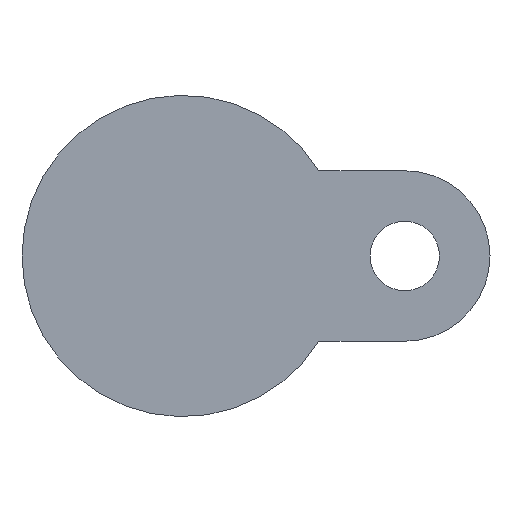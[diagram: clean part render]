
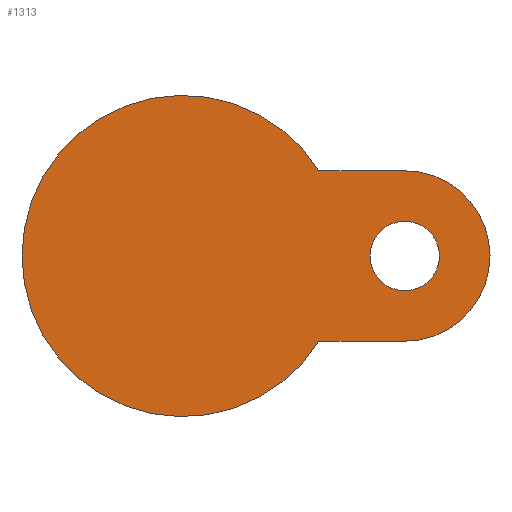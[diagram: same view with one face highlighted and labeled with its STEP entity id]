
A CAD part, front view. The second image highlights one B-rep face of the part: STEP entity #1313.
In plain terms, the highlighted planar face has unit normal (0, -1, 0).
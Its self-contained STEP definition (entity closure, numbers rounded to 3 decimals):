
#3 = AXIS2_PLACEMENT_3D ( 'NONE', #442, #1029, #1351 ) ;
#32 = CARTESIAN_POINT ( 'NONE',  ( 30.5, -23., -21.5 ) ) ;
#36 = DIRECTION ( 'NONE',  ( 0., 1., 0. ) ) ;
#38 = ORIENTED_EDGE ( 'NONE', *, *, #372, .F. ) ;
#102 = CIRCLE ( 'NONE', #635, 40.5 ) ;
#152 = CARTESIAN_POINT ( 'NONE',  ( 56., -23., 0. ) ) ;
#162 = DIRECTION ( 'NONE',  ( 1., 0., 0. ) ) ;
#170 = DIRECTION ( 'NONE',  ( 1., 0., 0. ) ) ;
#185 = CARTESIAN_POINT ( 'NONE',  ( 64.75, -23., 0. ) ) ;
#195 = LINE ( 'NONE', #614, #682 ) ;
#198 = VERTEX_POINT ( 'NONE', #840 ) ;
#263 = ORIENTED_EDGE ( 'NONE', *, *, #778, .F. ) ;
#268 = AXIS2_PLACEMENT_3D ( 'NONE', #613, #36, #1423 ) ;
#278 = DIRECTION ( 'NONE',  ( 1., 0., 0. ) ) ;
#283 = VERTEX_POINT ( 'NONE', #1500 ) ;
#351 = FACE_BOUND ( 'NONE', #554, .T. ) ;
#372 = EDGE_CURVE ( 'NONE', #841, #396, #1239, .T. ) ;
#375 = ORIENTED_EDGE ( 'NONE', *, *, #560, .T. ) ;
#396 = VERTEX_POINT ( 'NONE', #960 ) ;
#426 = VECTOR ( 'NONE', #600, 1000. ) ;
#433 = EDGE_CURVE ( 'NONE', #1179, #1299, #674, .T. ) ;
#442 = CARTESIAN_POINT ( 'NONE',  ( 56., -23., 0. ) ) ;
#473 = DIRECTION ( 'NONE',  ( 0., -1., 0. ) ) ;
#506 = EDGE_LOOP ( 'NONE', ( #1270, #263, #38, #607 ) ) ;
#554 = EDGE_LOOP ( 'NONE', ( #375, #1125 ) ) ;
#560 = EDGE_CURVE ( 'NONE', #1299, #1179, #1488, .T. ) ;
#573 = AXIS2_PLACEMENT_3D ( 'NONE', #152, #740, #170 ) ;
#600 = DIRECTION ( 'NONE',  ( -1., 0., 0. ) ) ;
#607 = ORIENTED_EDGE ( 'NONE', *, *, #1218, .F. ) ;
#613 = CARTESIAN_POINT ( 'NONE',  ( 56., -23., 0. ) ) ;
#614 = CARTESIAN_POINT ( 'NONE',  ( 30.5, -23., 21.5 ) ) ;
#635 = AXIS2_PLACEMENT_3D ( 'NONE', #1115, #1306, #162 ) ;
#674 = CIRCLE ( 'NONE', #268, 8.75 ) ;
#682 = VECTOR ( 'NONE', #991, 1000. ) ;
#729 = LINE ( 'NONE', #32, #426 ) ;
#738 = PLANE ( 'NONE',  #1284 ) ;
#740 = DIRECTION ( 'NONE',  ( 0., 1., 0. ) ) ;
#778 = EDGE_CURVE ( 'NONE', #396, #283, #729, .T. ) ;
#819 = CARTESIAN_POINT ( 'NONE',  ( 40.5, -23., 0. ) ) ;
#838 = CARTESIAN_POINT ( 'NONE',  ( 47.25, -23., 0. ) ) ;
#840 = CARTESIAN_POINT ( 'NONE',  ( 34.322, -23., 21.5 ) ) ;
#841 = VERTEX_POINT ( 'NONE', #1233 ) ;
#960 = CARTESIAN_POINT ( 'NONE',  ( 56., -23., -21.5 ) ) ;
#991 = DIRECTION ( 'NONE',  ( 1., 0., 0. ) ) ;
#1029 = DIRECTION ( 'NONE',  ( 0., 1., 0. ) ) ;
#1115 = CARTESIAN_POINT ( 'NONE',  ( 0., -23., 0. ) ) ;
#1125 = ORIENTED_EDGE ( 'NONE', *, *, #433, .T. ) ;
#1179 = VERTEX_POINT ( 'NONE', #185 ) ;
#1208 = EDGE_CURVE ( 'NONE', #198, #283, #102, .T. ) ;
#1218 = EDGE_CURVE ( 'NONE', #198, #841, #195, .T. ) ;
#1233 = CARTESIAN_POINT ( 'NONE',  ( 56., -23., 21.5 ) ) ;
#1239 = CIRCLE ( 'NONE', #573, 21.5 ) ;
#1270 = ORIENTED_EDGE ( 'NONE', *, *, #1208, .T. ) ;
#1284 = AXIS2_PLACEMENT_3D ( 'NONE', #819, #473, #278 ) ;
#1299 = VERTEX_POINT ( 'NONE', #838 ) ;
#1306 = DIRECTION ( 'NONE',  ( 0., -1., 0. ) ) ;
#1313 = ADVANCED_FACE ( 'NONE', ( #351, #1403 ), #738, .T. ) ;
#1351 = DIRECTION ( 'NONE',  ( -1., 0., 0. ) ) ;
#1403 = FACE_OUTER_BOUND ( 'NONE', #506, .T. ) ;
#1423 = DIRECTION ( 'NONE',  ( -1., 0., 0. ) ) ;
#1488 = CIRCLE ( 'NONE', #3, 8.75 ) ;
#1500 = CARTESIAN_POINT ( 'NONE',  ( 34.322, -23., -21.5 ) ) ;
